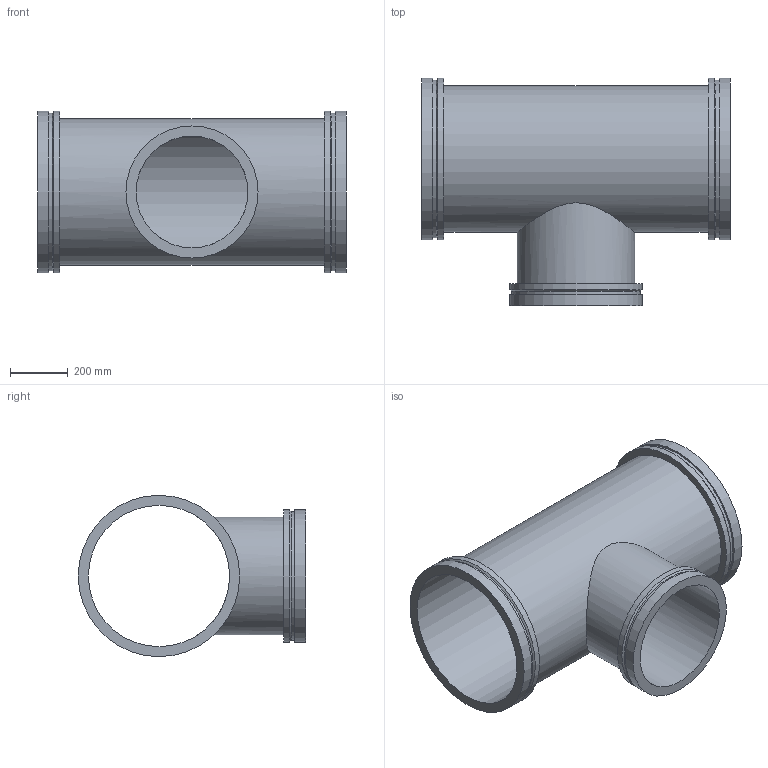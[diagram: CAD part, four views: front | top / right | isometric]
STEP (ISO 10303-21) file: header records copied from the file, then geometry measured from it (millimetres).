
FILE_DESCRIPTION(/* description */ ('VIC REDUCING TEE No W025 VR','CAx-IF Rec.Pracs.---Representation and Presentation of Product Manufacturing Information (PMI)---4.0---2014-10-13'),/* implementation_level */ '2;1');
FILE_NAME(/* name */ 'C:\Users\kkamble\AppData\Roaming\Autodesk\ApplicationPlugins\Back Up\Victaulic_Vic-Ring_Tee Reducing_No W25 VR (AGR)\Victaulic_Vic-Ring_Tee Reducing_No W25 VR (AGR)_20.0x16.0 (500x400).stp',/* time_stamp */ '2020-09-10T11:52:54+05:00',/* author */ ('mchristi'),/* organization */ ('Victaulic'),/* preprocessor_version */ 'ST-DEVELOPER v17.2',/* originating_system */ 'Autodesk Inventor 2019',/* authorisation */ '');
FILE_SCHEMA (('AP242_MANAGED_MODEL_BASED_3D_ENGINEERING_MIM_LF { 1 0 10303 442 1 1 4 }'));
Length unit declared in the file: inch
Products named in the file (1): W25 VR-20.0x16.0
Bounding box: 1066.8 x 787.4 x 558.8 mm (x, y, z)
Volume: 26901477.4 mm3; surface area: 4188224.7 mm2
Topology: 1 solids, 1 shells, 25 faces, 68 edges, 52 vertices
Faces by surface type: cylinder 13, plane 9, cone 3
Full cylindrical faces by diameter (mm): 387.35 x1, 406.4 x1, 444.5 x1, 457.2 x2, 488.95 x1, 508 x1, 546.1 x2, 558.8 x4
Entity records: 1195 total; most frequent: CARTESIAN_POINT 351, DIRECTION 190, ORIENTED_EDGE 136, AXIS2_PLACEMENT_3D 87, EDGE_CURVE 68, VERTEX_POINT 52, CIRCLE 48, EDGE_LOOP 36
